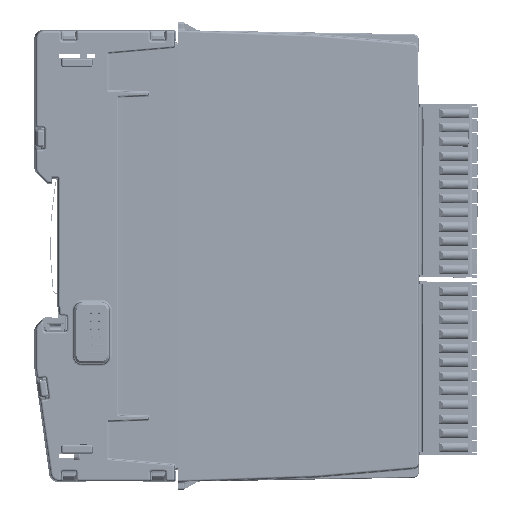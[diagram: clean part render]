
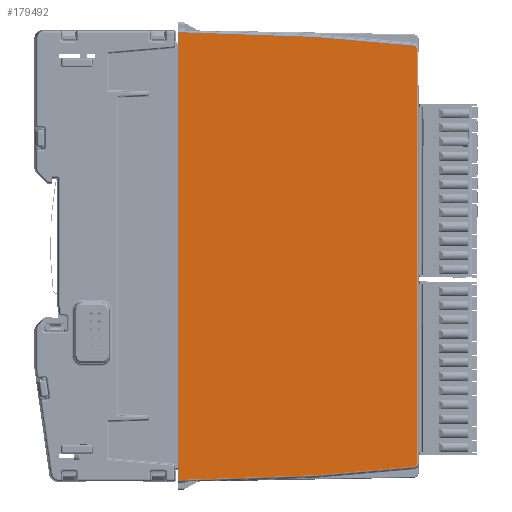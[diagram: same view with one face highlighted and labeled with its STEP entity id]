
A CAD part, left-side view. The second image highlights one B-rep face of the part: STEP entity #179492.
In plain terms, the highlighted planar face has unit normal (-1, -0.018, 0).
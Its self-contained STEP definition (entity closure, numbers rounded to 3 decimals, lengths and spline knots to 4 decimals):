
#16710=FACE_OUTER_BOUND('',#26662,.T.);
#26662=EDGE_LOOP('',(#141590,#141591,#141592,#141593,#141594,#141595,#141596,
#141597,#141598,#141599));
#42769=LINE('',#298578,#60433);
#42770=LINE('',#298580,#60434);
#42771=LINE('',#298582,#60435);
#42772=LINE('',#298584,#60436);
#42773=LINE('',#298586,#60437);
#42774=LINE('',#298590,#60438);
#42775=LINE('',#298594,#60439);
#42776=LINE('',#298595,#60440);
#60433=VECTOR('',#229495,39.3701);
#60434=VECTOR('',#229496,39.3701);
#60435=VECTOR('',#229497,39.3701);
#60436=VECTOR('',#229498,39.3701);
#60437=VECTOR('',#229499,39.3701);
#60438=VECTOR('',#229502,39.3701);
#60439=VECTOR('',#229505,39.3701);
#60440=VECTOR('',#229506,39.3701);
#66965=ELLIPSE('',#192808,0.0315,0.0315);
#66966=ELLIPSE('',#192809,0.0315,0.0315);
#78390=VERTEX_POINT('',#298576);
#78391=VERTEX_POINT('',#298577);
#78392=VERTEX_POINT('',#298579);
#78393=VERTEX_POINT('',#298581);
#78394=VERTEX_POINT('',#298583);
#78395=VERTEX_POINT('',#298585);
#78396=VERTEX_POINT('',#298587);
#78397=VERTEX_POINT('',#298589);
#78398=VERTEX_POINT('',#298591);
#78399=VERTEX_POINT('',#298593);
#100380=EDGE_CURVE('',#78390,#78391,#42769,.T.);
#100381=EDGE_CURVE('',#78392,#78391,#42770,.T.);
#100382=EDGE_CURVE('',#78392,#78393,#42771,.T.);
#100383=EDGE_CURVE('',#78393,#78394,#42772,.T.);
#100384=EDGE_CURVE('',#78394,#78395,#42773,.T.);
#100385=EDGE_CURVE('',#78395,#78396,#66965,.T.);
#100386=EDGE_CURVE('',#78396,#78397,#42774,.T.);
#100387=EDGE_CURVE('',#78397,#78398,#66966,.T.);
#100388=EDGE_CURVE('',#78398,#78399,#42775,.T.);
#100389=EDGE_CURVE('',#78399,#78390,#42776,.T.);
#141590=ORIENTED_EDGE('',*,*,#100380,.T.);
#141591=ORIENTED_EDGE('',*,*,#100381,.F.);
#141592=ORIENTED_EDGE('',*,*,#100382,.T.);
#141593=ORIENTED_EDGE('',*,*,#100383,.T.);
#141594=ORIENTED_EDGE('',*,*,#100384,.T.);
#141595=ORIENTED_EDGE('',*,*,#100385,.T.);
#141596=ORIENTED_EDGE('',*,*,#100386,.T.);
#141597=ORIENTED_EDGE('',*,*,#100387,.T.);
#141598=ORIENTED_EDGE('',*,*,#100388,.T.);
#141599=ORIENTED_EDGE('',*,*,#100389,.T.);
#161849=PLANE('',#192807);
#179492=ADVANCED_FACE('',(#16710),#161849,.T.);
#192807=AXIS2_PLACEMENT_3D('',#298575,#229493,#229494);
#192808=AXIS2_PLACEMENT_3D('',#298588,#229500,#229501);
#192809=AXIS2_PLACEMENT_3D('',#298592,#229503,#229504);
#229493=DIRECTION('center_axis',(-1.,-0.017,
0.));
#229494=DIRECTION('ref_axis',(-0.017,1.,0.));
#229495=DIRECTION('',(0.,0.,-1.));
#229496=DIRECTION('',(0.,0.,1.));
#229497=DIRECTION('',(0.,0.,-1.));
#229498=DIRECTION('',(0.017,-0.999,0.035));
#229499=DIRECTION('',(0.017,-0.996,0.087));
#229500=DIRECTION('center_axis',(-1.,-0.017,
0.));
#229501=DIRECTION('ref_axis',(0.017,-1.,0.));
#229502=DIRECTION('',(0.,0.,1.));
#229503=DIRECTION('center_axis',(-1.,-0.017,
0.));
#229504=DIRECTION('ref_axis',(0.017,-1.,0.));
#229505=DIRECTION('',(-0.017,0.996,0.087));
#229506=DIRECTION('',(-0.017,0.999,0.035));
#298575=CARTESIAN_POINT('Origin',(-0.0296,-0.489,
-2.0669));
#298576=CARTESIAN_POINT('',(-0.0227,-0.8827,0.1083));
#298577=CARTESIAN_POINT('',(-0.0227,-0.8827,-0.0312));
#298578=CARTESIAN_POINT('',(-0.0227,-0.8827,0.128));
#298579=CARTESIAN_POINT('',(-0.0227,-0.8827,-4.1027));
#298580=CARTESIAN_POINT('',(-0.0227,-0.8827,-7.5932));
#298581=CARTESIAN_POINT('',(-0.0227,-0.8827,-4.2421));
#298582=CARTESIAN_POINT('',(-0.0227,-0.8827,0.128));
#298583=CARTESIAN_POINT('',(0.0007,-2.2205,-4.1954));
#298584=CARTESIAN_POINT('',(-0.0282,-0.5654,-4.2532));
#298585=CARTESIAN_POINT('',(0.0174,-3.1772,-4.1117));
#298586=CARTESIAN_POINT('',(-0.0261,-0.6869,-4.3296));
#298587=CARTESIAN_POINT('',(0.0179,-3.2059,-4.0803));
#298588=CARTESIAN_POINT('Origin',(0.0173,-3.1744,
-4.0803));
#298589=CARTESIAN_POINT('',(0.0179,-3.2059,-0.0535));
#298590=CARTESIAN_POINT('',(0.0179,-3.2059,-0.0535));
#298591=CARTESIAN_POINT('',(0.0174,-3.1772,-0.0221));
#298592=CARTESIAN_POINT('Origin',(0.0173,-3.1744,
-0.0535));
#298593=CARTESIAN_POINT('',(0.0007,-2.2205,0.0616));
#298594=CARTESIAN_POINT('',(-0.0261,-0.6869,0.1957));
#298595=CARTESIAN_POINT('',(-0.0282,-0.5654,0.1194));
